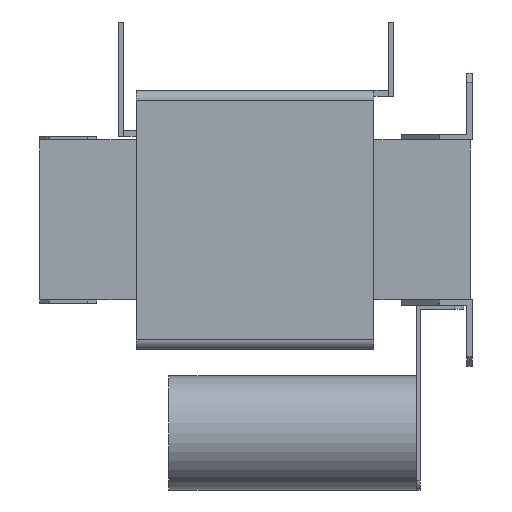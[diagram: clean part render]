
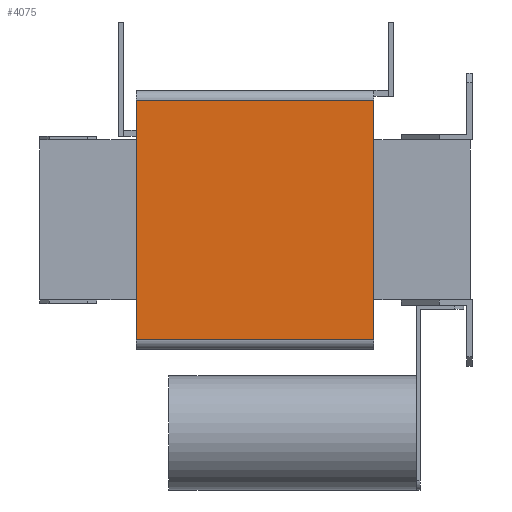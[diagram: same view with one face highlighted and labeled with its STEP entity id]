
A CAD part, left-side view. The second image highlights one B-rep face of the part: STEP entity #4075.
In plain terms, the highlighted planar face has unit normal (-1, 0, 0).
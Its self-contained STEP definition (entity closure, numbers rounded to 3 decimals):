
#359=FACE_OUTER_BOUND('',#611,.T.);
#611=EDGE_LOOP('',(#3135,#3136,#3137,#3138));
#957=LINE('',#6208,#1419);
#962=LINE('',#6227,#1424);
#966=LINE('',#6241,#1428);
#969=LINE('',#6247,#1431);
#1419=VECTOR('',#5042,10.);
#1424=VECTOR('',#5059,10.);
#1428=VECTOR('',#5071,10.);
#1431=VECTOR('',#5080,10.);
#1857=VERTEX_POINT('',#6206);
#1858=VERTEX_POINT('',#6207);
#1866=VERTEX_POINT('',#6225);
#1872=VERTEX_POINT('',#6239);
#2309=EDGE_CURVE('',#1857,#1858,#957,.T.);
#2319=EDGE_CURVE('',#1866,#1857,#962,.T.);
#2326=EDGE_CURVE('',#1866,#1872,#966,.T.);
#2329=EDGE_CURVE('',#1858,#1872,#969,.T.);
#3135=ORIENTED_EDGE('',*,*,#2319,.F.);
#3136=ORIENTED_EDGE('',*,*,#2326,.T.);
#3137=ORIENTED_EDGE('',*,*,#2329,.F.);
#3138=ORIENTED_EDGE('',*,*,#2309,.F.);
#3865=PLANE('',#4412);
#4075=ADVANCED_FACE('',(#359),#3865,.T.);
#4412=AXIS2_PLACEMENT_3D('',#6253,#5088,#5089);
#5042=DIRECTION('',(0.,0.,1.));
#5059=DIRECTION('',(0.,1.,0.));
#5071=DIRECTION('',(0.,0.,1.));
#5080=DIRECTION('',(0.,-1.,0.));
#5088=DIRECTION('center_axis',(-1.,0.,0.));
#5089=DIRECTION('ref_axis',(0.,0.,1.));
#6206=CARTESIAN_POINT('',(-232.,353.5,-126.));
#6207=CARTESIAN_POINT('',(-232.,353.5,126.));
#6208=CARTESIAN_POINT('',(-232.,353.5,-126.));
#6225=CARTESIAN_POINT('',(-232.,103.5,-126.));
#6227=CARTESIAN_POINT('',(-232.,103.5,-126.));
#6239=CARTESIAN_POINT('',(-232.,103.5,126.));
#6241=CARTESIAN_POINT('',(-232.,103.5,-136.));
#6247=CARTESIAN_POINT('',(-232.,103.5,126.));
#6253=CARTESIAN_POINT('Origin',(-232.,103.5,-136.));
